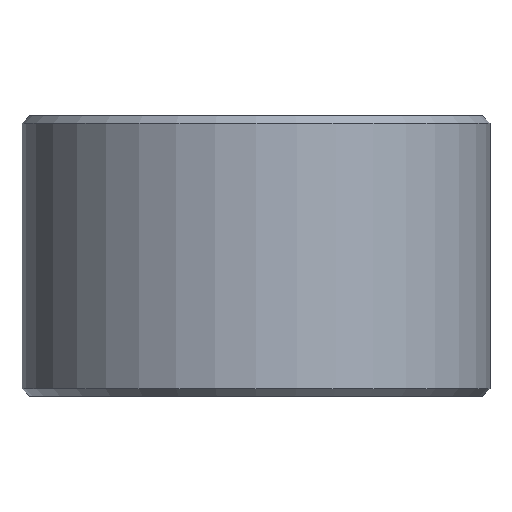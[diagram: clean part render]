
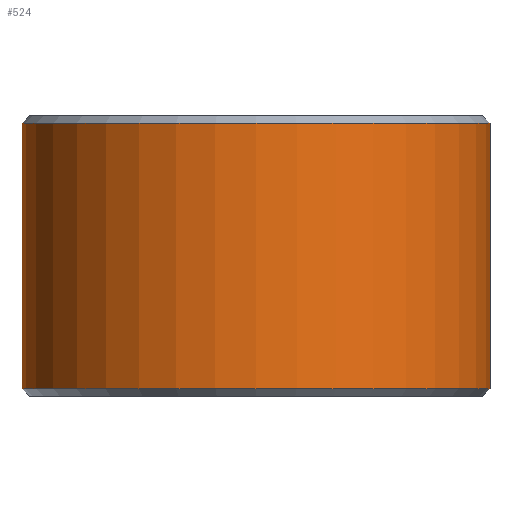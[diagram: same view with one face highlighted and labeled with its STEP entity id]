
A CAD part, front view. The second image highlights one B-rep face of the part: STEP entity #524.
In plain terms, the highlighted cylindrical face has radius 15 mm (diameter 30 mm), a partial arc.
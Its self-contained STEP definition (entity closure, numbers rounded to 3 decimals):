
#70=CARTESIAN_POINT('',(0.,0.,17.5));
#71=DIRECTION('',(0.,0.,1.));
#72=DIRECTION('',(-1.,0.,0.));
#73=AXIS2_PLACEMENT_3D('',#70,#71,#72);
#75=CARTESIAN_POINT('',(0.,0.,0.5));
#76=DIRECTION('',(0.,0.,-1.));
#77=DIRECTION('',(1.,0.,0.));
#78=AXIS2_PLACEMENT_3D('',#75,#76,#77);
#80=DIRECTION('',(0.,0.,1.));
#81=VECTOR('',#80,17.);
#82=CARTESIAN_POINT('',(-15.,0.,
0.5));
#83=LINE('',#82,#81);
#122=DIRECTION('',(0.,0.,1.));
#123=VECTOR('',#122,17.);
#124=CARTESIAN_POINT('',(15.,0.,0.5));
#125=LINE('',#124,#123);
#364=CARTESIAN_POINT('',(15.,0.,17.5));
#365=CARTESIAN_POINT('',(-15.,0.,17.5));
#366=VERTEX_POINT('',#364);
#367=VERTEX_POINT('',#365);
#372=CARTESIAN_POINT('',(-15.,0.,0.5));
#373=CARTESIAN_POINT('',(15.,0.,0.5));
#374=VERTEX_POINT('',#372);
#375=VERTEX_POINT('',#373);
#510=CARTESIAN_POINT('',(0.,0.,0.));
#511=DIRECTION('',(0.,0.,1.));
#512=DIRECTION('',(1.,0.,0.));
#513=AXIS2_PLACEMENT_3D('',#510,#511,#512);
#514=CYLINDRICAL_SURFACE('',#513,15.);
#516=ORIENTED_EDGE('',*,*,#515,.T.);
#518=ORIENTED_EDGE('',*,*,#517,.F.);
#519=ORIENTED_EDGE('',*,*,#504,.T.);
#521=ORIENTED_EDGE('',*,*,#520,.T.);
#522=EDGE_LOOP('',(#516,#518,#519,#521));
#523=FACE_OUTER_BOUND('',#522,.F.);
#74=CIRCLE('',#73,15.);
#79=CIRCLE('',#78,15.);
#504=EDGE_CURVE('',#375,#374,#79,.T.);
#515=EDGE_CURVE('',#367,#366,#74,.T.);
#517=EDGE_CURVE('',#375,#366,#125,.T.);
#520=EDGE_CURVE('',#374,#367,#83,.T.);
#524=ADVANCED_FACE('',(#523),#514,.T.);
